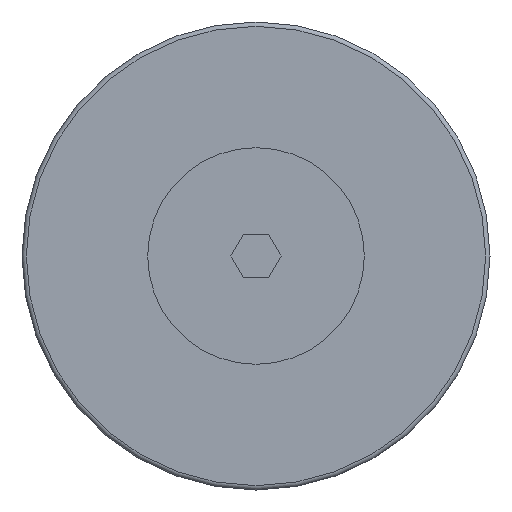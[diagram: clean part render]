
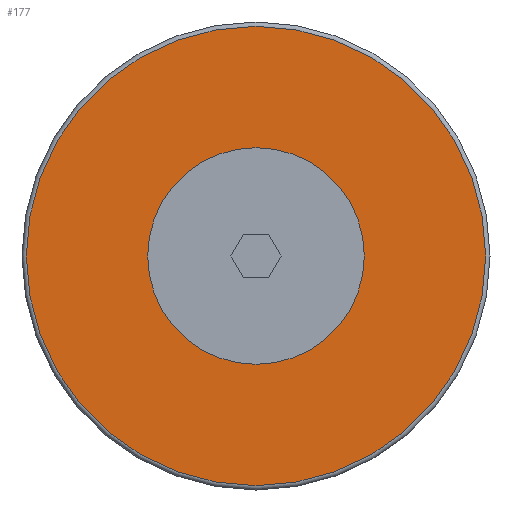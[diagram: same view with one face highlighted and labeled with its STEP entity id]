
A CAD part, front view. The second image highlights one B-rep face of the part: STEP entity #177.
In plain terms, the highlighted planar face has unit normal (0, -1, 0).
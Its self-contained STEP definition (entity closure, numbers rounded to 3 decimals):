
#177=ADVANCED_FACE('',(#242,#243),#244,.F.);
#242=FACE_BOUND('',#366,.T.);
#243=FACE_OUTER_BOUND('',#367,.T.);
#244=PLANE('',#368);
#366=EDGE_LOOP('',(#507));
#367=EDGE_LOOP('',(#508));
#368=AXIS2_PLACEMENT_3D('',#509,#510,#511);
#507=ORIENTED_EDGE('',*,*,#834,.F.);
#508=ORIENTED_EDGE('',*,*,#833,.T.);
#509=CARTESIAN_POINT('',(-26.5,-33.,0.));
#510=DIRECTION('',(0.0,1.0,0.0));
#511=DIRECTION('',(0.0,0.0,1.0));
#833=EDGE_CURVE('',#942,#942,#943,.T.);
#834=EDGE_CURVE('',#944,#944,#945,.T.);
#942=VERTEX_POINT('',#1110);
#943=CIRCLE('',#1111,26.5);
#944=VERTEX_POINT('',#1112);
#945=CIRCLE('',#1113,12.5);
#1110=CARTESIAN_POINT('',(0.,-33.,-26.5));
#1111=AXIS2_PLACEMENT_3D('',#1453,#1454,#1455);
#1112=CARTESIAN_POINT('',(0.,-33.,-12.5));
#1113=AXIS2_PLACEMENT_3D('',#1456,#1457,#1458);
#1453=CARTESIAN_POINT('',(0.,-33.,0.));
#1454=DIRECTION('',(0.0,-1.0,0.0));
#1455=DIRECTION('',(0.0,0.0,-1.0));
#1456=CARTESIAN_POINT('',(0.,-33.,0.));
#1457=DIRECTION('',(0.0,-1.0,0.0));
#1458=DIRECTION('',(0.0,0.0,-1.0));
